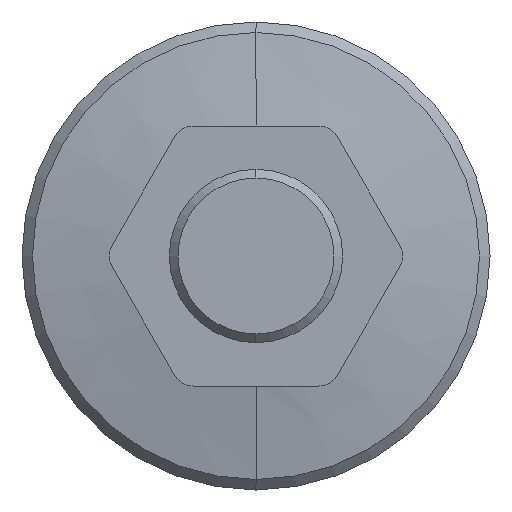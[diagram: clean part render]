
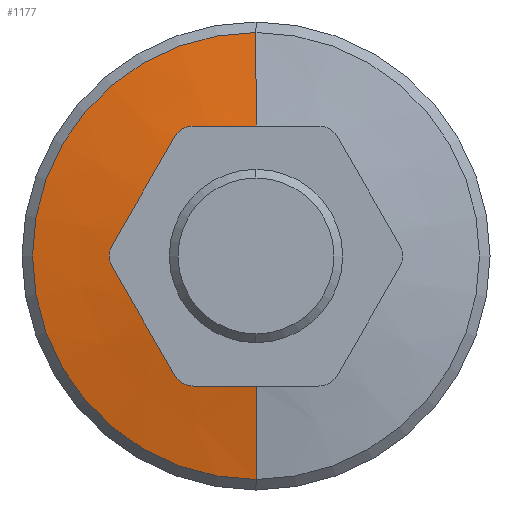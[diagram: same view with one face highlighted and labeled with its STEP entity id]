
A CAD part, left-side view. The second image highlights one B-rep face of the part: STEP entity #1177.
In plain terms, the highlighted conical face has half-angle 80 degrees and reference radius 54 mm.
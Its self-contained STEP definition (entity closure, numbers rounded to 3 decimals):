
#23 = AXIS2_PLACEMENT_3D ( 'NONE', #489, #1325, #599 ) ;
#82 = CIRCLE ( 'NONE', #23, 51.572 ) ;
#154 = VECTOR ( 'NONE', #466, 1000. ) ;
#190 = LINE ( 'NONE', #810, #154 ) ;
#222 = CARTESIAN_POINT ( 'NONE',  ( 84.232, 0., 0. ) ) ;
#232 = CIRCLE ( 'NONE', #1352, 30. ) ;
#250 = CARTESIAN_POINT ( 'NONE',  ( 83.804, 0., -51.572 ) ) ;
#262 = EDGE_CURVE ( 'NONE', #1279, #962, #996, .T. ) ;
#266 = CARTESIAN_POINT ( 'NONE',  ( 80., 0., 0. ) ) ;
#306 = DIRECTION ( 'NONE',  ( 0., 0., 1. ) ) ;
#349 = DIRECTION ( 'NONE',  ( 1., 0., 0. ) ) ;
#371 = EDGE_CURVE ( 'NONE', #972, #1051, #190, .T. ) ;
#386 = DIRECTION ( 'NONE',  ( 0., 0., 1. ) ) ;
#451 = EDGE_CURVE ( 'NONE', #1051, #492, #82, .T. ) ;
#463 = CARTESIAN_POINT ( 'NONE',  ( 80., 25.981, -15. ) ) ;
#466 = DIRECTION ( 'NONE',  ( 0.174, 0., 0.985 ) ) ;
#485 = CARTESIAN_POINT ( 'NONE',  ( 80., 25.981, 15. ) ) ;
#488 = CARTESIAN_POINT ( 'NONE',  ( 80., 0., -30. ) ) ;
#489 = CARTESIAN_POINT ( 'NONE',  ( 83.804, 0., 0. ) ) ;
#490 = DIRECTION ( 'NONE',  ( -1., 0., 0. ) ) ;
#492 = VERTEX_POINT ( 'NONE', #250 ) ;
#495 = FACE_OUTER_BOUND ( 'NONE', #1090, .T. ) ;
#510 = ORIENTED_EDGE ( 'NONE', *, *, #262, .F. ) ;
#543 = ORIENTED_EDGE ( 'NONE', *, *, #1382, .F. ) ;
#599 = DIRECTION ( 'NONE',  ( 0., 0., 1. ) ) ;
#674 = AXIS2_PLACEMENT_3D ( 'NONE', #266, #1112, #386 ) ;
#750 = EDGE_CURVE ( 'NONE', #1321, #492, #1201, .T. ) ;
#752 = CARTESIAN_POINT ( 'NONE',  ( 80., 0., 0. ) ) ;
#771 = DIRECTION ( 'NONE',  ( 0.174, 0., -0.985 ) ) ;
#810 = CARTESIAN_POINT ( 'NONE',  ( 84.232, 0., 54. ) ) ;
#881 = ORIENTED_EDGE ( 'NONE', *, *, #1329, .F. ) ;
#909 = VECTOR ( 'NONE', #771, 1000. ) ;
#926 = ORIENTED_EDGE ( 'NONE', *, *, #750, .F. ) ;
#945 = DIRECTION ( 'NONE',  ( 0., 0., -1. ) ) ;
#962 = VERTEX_POINT ( 'NONE', #463 ) ;
#972 = VERTEX_POINT ( 'NONE', #1293 ) ;
#989 = CONICAL_SURFACE ( 'NONE', #1125, 54., 1.396 ) ;
#996 = CIRCLE ( 'NONE', #1289, 30. ) ;
#1051 = VERTEX_POINT ( 'NONE', #1273 ) ;
#1073 = ORIENTED_EDGE ( 'NONE', *, *, #451, .T. ) ;
#1086 = CIRCLE ( 'NONE', #674, 30. ) ;
#1090 = EDGE_LOOP ( 'NONE', ( #543, #1126, #1073, #926, #881, #510 ) ) ;
#1112 = DIRECTION ( 'NONE',  ( -1., 0., 0. ) ) ;
#1125 = AXIS2_PLACEMENT_3D ( 'NONE', #222, #349, #945 ) ;
#1126 = ORIENTED_EDGE ( 'NONE', *, *, #371, .T. ) ;
#1177 = ADVANCED_FACE ( 'NONE', ( #495 ), #989, .T. ) ;
#1201 = LINE ( 'NONE', #1488, #909 ) ;
#1219 = CARTESIAN_POINT ( 'NONE',  ( 80., 0., 0. ) ) ;
#1255 = DIRECTION ( 'NONE',  ( -1., 0., 0. ) ) ;
#1273 = CARTESIAN_POINT ( 'NONE',  ( 83.804, 0., 51.572 ) ) ;
#1279 = VERTEX_POINT ( 'NONE', #485 ) ;
#1289 = AXIS2_PLACEMENT_3D ( 'NONE', #752, #1255, #306 ) ;
#1293 = CARTESIAN_POINT ( 'NONE',  ( 80., 0., 30. ) ) ;
#1321 = VERTEX_POINT ( 'NONE', #488 ) ;
#1325 = DIRECTION ( 'NONE',  ( -1., 0., 0. ) ) ;
#1327 = DIRECTION ( 'NONE',  ( 0., 0., 1. ) ) ;
#1329 = EDGE_CURVE ( 'NONE', #962, #1321, #232, .T. ) ;
#1352 = AXIS2_PLACEMENT_3D ( 'NONE', #1219, #490, #1327 ) ;
#1382 = EDGE_CURVE ( 'NONE', #972, #1279, #1086, .T. ) ;
#1488 = CARTESIAN_POINT ( 'NONE',  ( 84.232, 0., -54. ) ) ;
